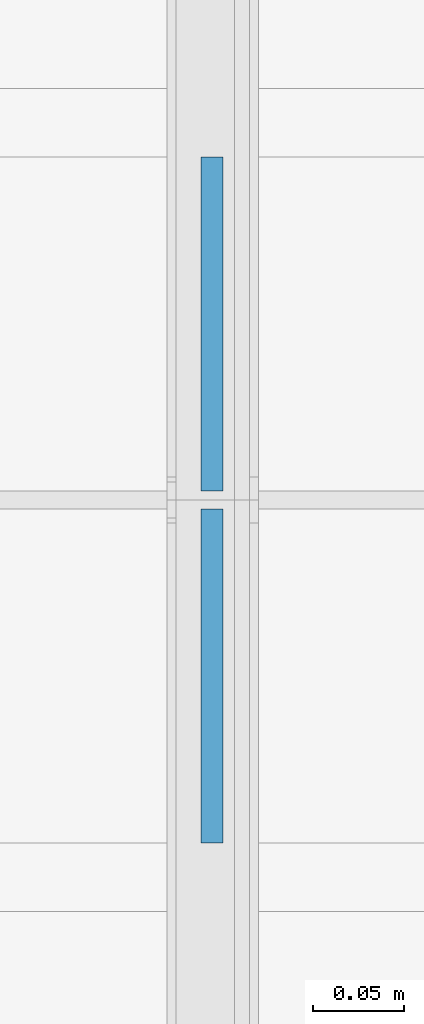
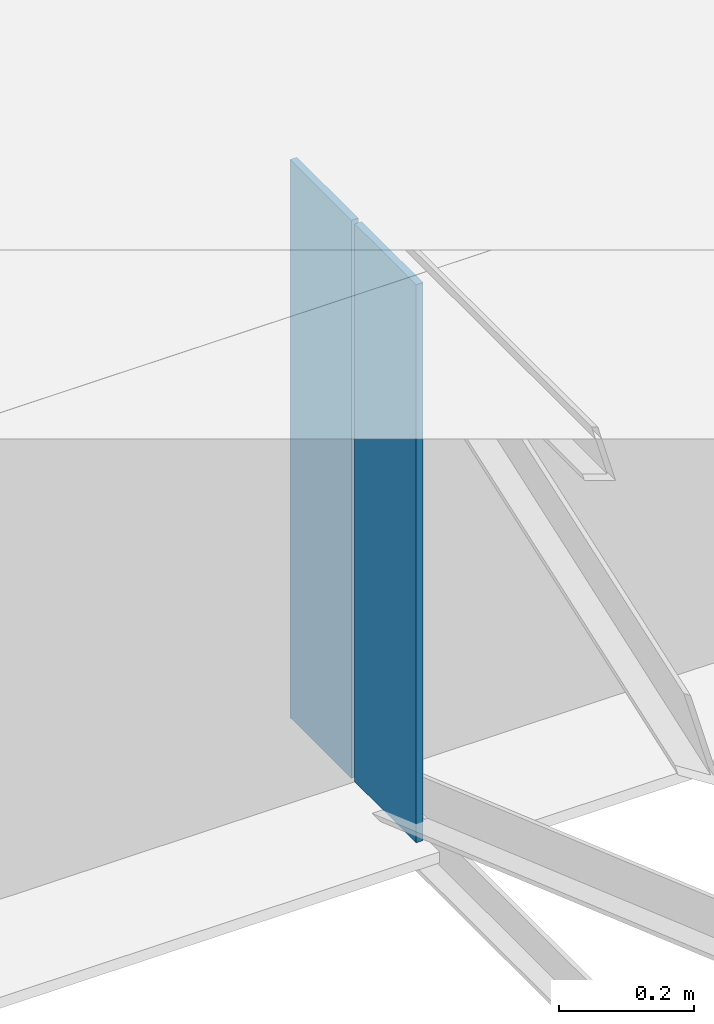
# One storey, part 8 of 12: 2 plates.
"""IFC4 building model written with IfcOpenShell, lengths in metres."""

from ifc_helpers import new_model, si_unit, frame, origin, origin_with_axes, origin_2d_with_axis, place, context, subcontext, project, spatial, rectangle, extrude, element, save


model = new_model("IFC4")

# Units and contexts
model_context = context("Model", 3, precision=1e-05, world=origin())
body_context = subcontext(model_context, "Body", "Model", "MODEL_VIEW")
ifc_project = project(units=[si_unit("LENGTHUNIT", "METRE"), si_unit("AREAUNIT", "SQUARE_METRE"), si_unit("VOLUMEUNIT", "CUBIC_METRE"), si_unit("PLANEANGLEUNIT", "RADIAN")], contexts=[model_context])

# Site, building, storey
site_placement = place(None, origin_with_axes())
site = spatial("IfcSite", under=ifc_project, at=site_placement, Name="Default Site")
building_placement = place(site_placement, origin_with_axes())
building = spatial("IfcBuilding", under=site, at=building_placement, Name="Bridge Structure")
storey_placement = place(building_placement, origin_with_axes())
storey = spatial("IfcBuildingStorey", under=building, at=storey_placement, Name="Superstructure")

# Plates
for number, where, z_axis, x_axis, name in (
    (1, (8.571, 1.53375, -0.506), (0.0, 0.0, 1.0), (1.0, 0.0, 0.0), "Intermediate Stiffener 3"),
    (2, (8.571, 1.34125, -0.506), (0.0, 0.0, 1.0), (1.0, 0.0, 0.0), "Intermediate Stiffener 3"),
):
    element("IfcPlate", number, at=place(storey_placement, frame(where, z_axis=z_axis, x_axis=x_axis)), inside=storey, Name=name, context=body_context, shape_type="SweptSolid", body=[
        extrude(rectangle(XDim=0.012, YDim=0.1825, at=origin_2d_with_axis()), origin_with_axes(), (0.0, 0.0, 1.0), 1.012),
    ])

save(model, "model.ifc")
